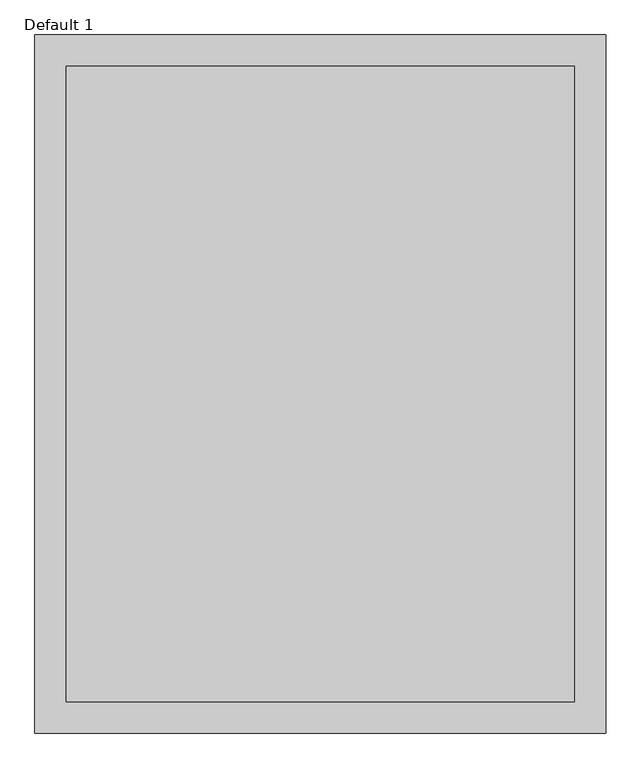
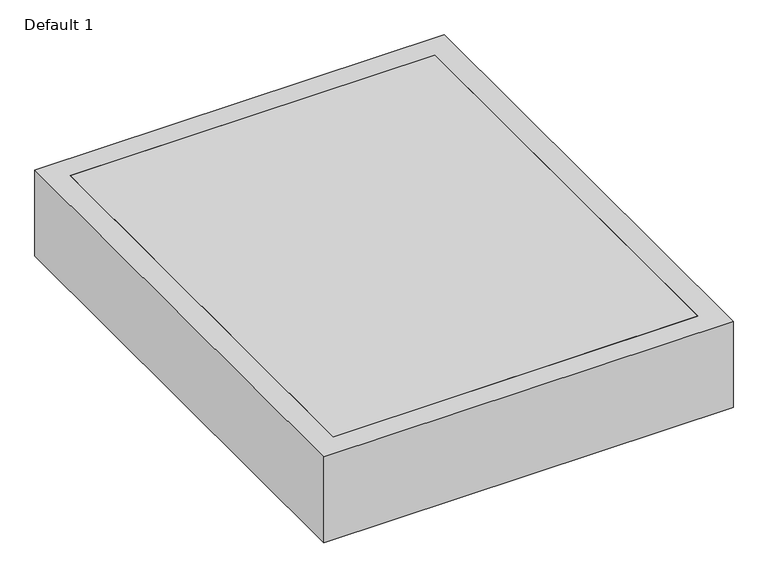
"""IFC4 building model written with IfcOpenShell, lengths in millimetres: proxy geometry, Skylite : Default 1."""

from ifc_helpers import new_model, si_unit, frame, origin, place, context, project, spatial, polyline, outline, extrude, source, transform, mapped, element, save


def default_1_245d95d3(model_context):
    return source(origin(), model_context, "Body", "SweptSolid", [
        extrude(outline(polyline([(-407.2, 508.8), (407.2, 508.8), (407.2, -508.8), (-407.2, -508.8), (-407.2, 508.8)])), frame((0.0, 0.0, 4157.0595878), z_axis=(0.0, 0.0, 1.0), x_axis=(1.0, 0.0, 0.0)), (0.0, 0.0, 1.0), 20.0),
        extrude(outline(polyline([(-457.2, -558.8), (-457.2, 558.8), (457.2, 558.8), (457.2, -558.8), (-457.2, -558.8)]), holes=[polyline([(407.2, 508.8), (-407.2, 508.8), (-407.2, -508.8), (407.2, -508.8), (407.2, 508.8)])]), frame((0.0, 0.0, 3974.6408791), z_axis=(0.0, 0.0, 1.0), x_axis=(1.0, 0.0, 0.0)), (0.0, 0.0, 1.0), 202.4187087),
    ])


if __name__ == "__main__":
    model = new_model("IFC4")
    model_context = context("Model", 3, world=origin())
    ifc_project = project(units=[si_unit("LENGTHUNIT", "METRE", prefix="MILLI")], contexts=[model_context])
    site = spatial("IfcSite", under=ifc_project)
    building = spatial("IfcBuilding", under=site)
    placement = place(None, origin())
    default_1_shape = default_1_245d95d3(model_context)
    element("IfcBuildingElementProxy", 1, Name="Skylite : Default 1", ObjectType="Skylite : Default 1", at=placement, inside=building, context=model_context, shape_type="MappedRepresentation", body=[
        mapped(default_1_shape, transform((0.0, 0.0, 0.0), x_axis=(1.0, 0.0, 0.0), y_axis=(0.0, 1.0, 0.0), z_axis=(0.0, 0.0, 1.0))),
    ])
    save(model, "model.ifc")
